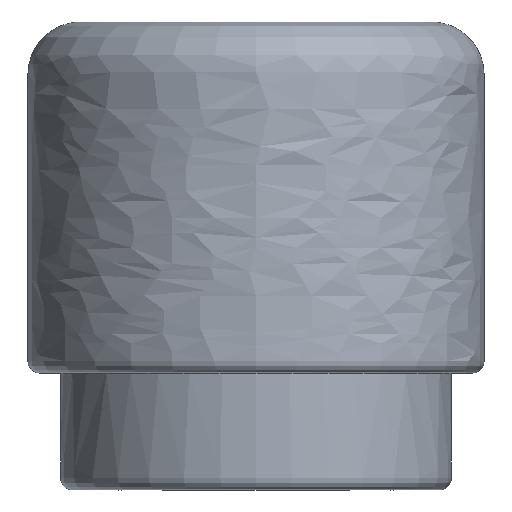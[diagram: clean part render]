
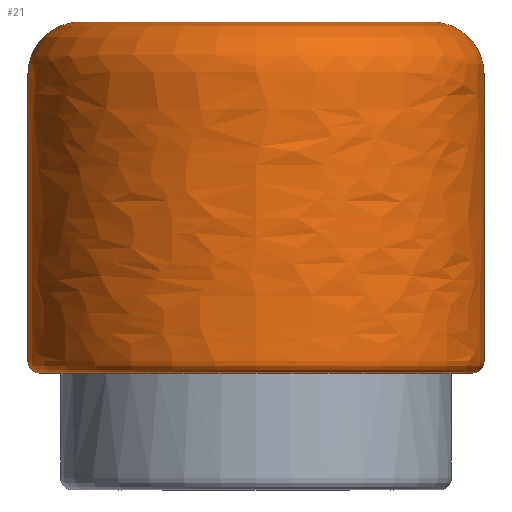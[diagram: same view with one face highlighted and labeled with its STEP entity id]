
A CAD part, front view. The second image highlights one B-rep face of the part: STEP entity #21.
In plain terms, the highlighted free-form (B-spline) face has degree [2, 2] with [5, 11] control points.
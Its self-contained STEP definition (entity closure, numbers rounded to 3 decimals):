
#21=ADVANCED_FACE('',(#25),#62,.T.);
#25=FACE_OUTER_BOUND('',#29,.T.);
#29=EDGE_LOOP('',(#38,#39));
#38=ORIENTED_EDGE('',*,*,#44,.T.);
#39=ORIENTED_EDGE('',*,*,#45,.F.);
#44=EDGE_CURVE('',#57,#58,#48,.T.);
#45=EDGE_CURVE('',#57,#58,#49,.T.);
#48=(
BOUNDED_CURVE()
B_SPLINE_CURVE(2,(#371,#372,#373,#374,#375,#376,#377,#378,#379,#380,#381),
 .UNSPECIFIED.,.F.,.F.)
B_SPLINE_CURVE_WITH_KNOTS((3,2,2,2,2,3),(-180.,-30.,40.686,285.686,
301.394,486.394),.UNSPECIFIED.)
CURVE()
GEOMETRIC_REPRESENTATION_ITEM()
RATIONAL_B_SPLINE_CURVE((1.,1.,1.,0.707,1.,1.,1.,0.707,
1.,1.,1.))
REPRESENTATION_ITEM('')
);
#49=(
BOUNDED_CURVE()
B_SPLINE_CURVE(2,(#382,#383,#384,#385,#386,#387,#388,#389,#390,#391,#392),
 .UNSPECIFIED.,.F.,.F.)
B_SPLINE_CURVE_WITH_KNOTS((3,2,2,2,2,3),(-180.,-30.,40.686,285.686,
301.394,486.394),.UNSPECIFIED.)
CURVE()
GEOMETRIC_REPRESENTATION_ITEM()
RATIONAL_B_SPLINE_CURVE((1.,1.,1.,0.707,1.,1.,1.,0.707,
1.,1.,1.))
REPRESENTATION_ITEM('')
);
#57=VERTEX_POINT('',#369);
#58=VERTEX_POINT('',#370);
#62=(
BOUNDED_SURFACE()
B_SPLINE_SURFACE(2,2,((#314,#315,#316,#317,#318,#319,#320,#321,#322,#323,
#324),(#325,#326,#327,#328,#329,#330,#331,#332,#333,#334,#335),(#336,#337,
#338,#339,#340,#341,#342,#343,#344,#345,#346),(#347,#348,#349,#350,#351,
#352,#353,#354,#355,#356,#357),(#358,#359,#360,#361,#362,#363,#364,#365,
#366,#367,#368)),.UNSPECIFIED.,.F.,.F.,.F.)
B_SPLINE_SURFACE_WITH_KNOTS((3,2,3),(3,2,2,2,2,3),(612.611,918.916,
1225.221),(-180.,-30.,40.686,285.686,301.394,
486.394),.UNSPECIFIED.)
GEOMETRIC_REPRESENTATION_ITEM()
RATIONAL_B_SPLINE_SURFACE(((1.,1.,1.,0.707,1.,1.,1.,0.707,
1.,1.,1.),(0.707,0.707,0.707,0.5,
0.707,0.707,0.707,0.5,
0.707,0.707,0.707),(1.,1.,1.,0.707,
1.,1.,1.,0.707,1.,1.,1.),(0.707,0.707,
0.707,0.5,0.707,0.707,
0.707,0.5,0.707,0.707,
0.707),(1.,1.,1.,0.707,1.,1.,1.,0.707,
1.,1.,1.)))
REPRESENTATION_ITEM('')
SURFACE()
);
#314=CARTESIAN_POINT('',(-1835.,419.,400.));
#315=CARTESIAN_POINT('',(-1760.,419.,400.));
#316=CARTESIAN_POINT('',(-1685.,419.,400.));
#317=CARTESIAN_POINT('',(-1640.,419.,400.));
#318=CARTESIAN_POINT('',(-1640.,419.,355.));
#319=CARTESIAN_POINT('',(-1640.,419.,232.5));
#320=CARTESIAN_POINT('',(-1640.,419.,110.));
#321=CARTESIAN_POINT('',(-1640.,419.,100.));
#322=CARTESIAN_POINT('',(-1650.,419.,100.));
#323=CARTESIAN_POINT('',(-1742.5,419.,100.));
#324=CARTESIAN_POINT('',(-1835.,419.,100.));
#325=CARTESIAN_POINT('',(-1835.,419.,400.));
#326=CARTESIAN_POINT('',(-1760.,344.,400.));
#327=CARTESIAN_POINT('',(-1685.,269.,400.));
#328=CARTESIAN_POINT('',(-1640.,224.,400.));
#329=CARTESIAN_POINT('',(-1640.,224.,355.));
#330=CARTESIAN_POINT('',(-1640.,224.,232.5));
#331=CARTESIAN_POINT('',(-1640.,224.,110.));
#332=CARTESIAN_POINT('',(-1640.,224.,100.));
#333=CARTESIAN_POINT('',(-1650.,234.,100.));
#334=CARTESIAN_POINT('',(-1742.5,326.5,100.));
#335=CARTESIAN_POINT('',(-1835.,419.,100.));
#336=CARTESIAN_POINT('',(-1835.,419.,400.));
#337=CARTESIAN_POINT('',(-1835.,344.,400.));
#338=CARTESIAN_POINT('',(-1835.,269.,400.));
#339=CARTESIAN_POINT('',(-1835.,224.,400.));
#340=CARTESIAN_POINT('',(-1835.,224.,355.));
#341=CARTESIAN_POINT('',(-1835.,224.,232.5));
#342=CARTESIAN_POINT('',(-1835.,224.,110.));
#343=CARTESIAN_POINT('',(-1835.,224.,100.));
#344=CARTESIAN_POINT('',(-1835.,234.,100.));
#345=CARTESIAN_POINT('',(-1835.,326.5,100.));
#346=CARTESIAN_POINT('',(-1835.,419.,100.));
#347=CARTESIAN_POINT('',(-1835.,419.,400.));
#348=CARTESIAN_POINT('',(-1910.,344.,400.));
#349=CARTESIAN_POINT('',(-1985.,269.,400.));
#350=CARTESIAN_POINT('',(-2030.,224.,400.));
#351=CARTESIAN_POINT('',(-2030.,224.,355.));
#352=CARTESIAN_POINT('',(-2030.,224.,232.5));
#353=CARTESIAN_POINT('',(-2030.,224.,110.));
#354=CARTESIAN_POINT('',(-2030.,224.,100.));
#355=CARTESIAN_POINT('',(-2020.,234.,100.));
#356=CARTESIAN_POINT('',(-1927.5,326.5,100.));
#357=CARTESIAN_POINT('',(-1835.,419.,100.));
#358=CARTESIAN_POINT('',(-1835.,419.,400.));
#359=CARTESIAN_POINT('',(-1910.,419.,400.));
#360=CARTESIAN_POINT('',(-1985.,419.,400.));
#361=CARTESIAN_POINT('',(-2030.,419.,400.));
#362=CARTESIAN_POINT('',(-2030.,419.,355.));
#363=CARTESIAN_POINT('',(-2030.,419.,232.5));
#364=CARTESIAN_POINT('',(-2030.,419.,110.));
#365=CARTESIAN_POINT('',(-2030.,419.,100.));
#366=CARTESIAN_POINT('',(-2020.,419.,100.));
#367=CARTESIAN_POINT('',(-1927.5,419.,100.));
#368=CARTESIAN_POINT('',(-1835.,419.,100.));
#369=CARTESIAN_POINT('',(-1835.,419.,400.));
#370=CARTESIAN_POINT('',(-1835.,419.,100.));
#371=CARTESIAN_POINT('',(-1835.,419.,400.));
#372=CARTESIAN_POINT('',(-1910.,419.,400.));
#373=CARTESIAN_POINT('',(-1985.,419.,400.));
#374=CARTESIAN_POINT('',(-2030.,419.,400.));
#375=CARTESIAN_POINT('',(-2030.,419.,355.));
#376=CARTESIAN_POINT('',(-2030.,419.,232.5));
#377=CARTESIAN_POINT('',(-2030.,419.,110.));
#378=CARTESIAN_POINT('',(-2030.,419.,100.));
#379=CARTESIAN_POINT('',(-2020.,419.,100.));
#380=CARTESIAN_POINT('',(-1927.5,419.,100.));
#381=CARTESIAN_POINT('',(-1835.,419.,100.));
#382=CARTESIAN_POINT('',(-1835.,419.,400.));
#383=CARTESIAN_POINT('',(-1760.,419.,400.));
#384=CARTESIAN_POINT('',(-1685.,419.,400.));
#385=CARTESIAN_POINT('',(-1640.,419.,400.));
#386=CARTESIAN_POINT('',(-1640.,419.,355.));
#387=CARTESIAN_POINT('',(-1640.,419.,232.5));
#388=CARTESIAN_POINT('',(-1640.,419.,110.));
#389=CARTESIAN_POINT('',(-1640.,419.,100.));
#390=CARTESIAN_POINT('',(-1650.,419.,100.));
#391=CARTESIAN_POINT('',(-1742.5,419.,100.));
#392=CARTESIAN_POINT('',(-1835.,419.,100.));
